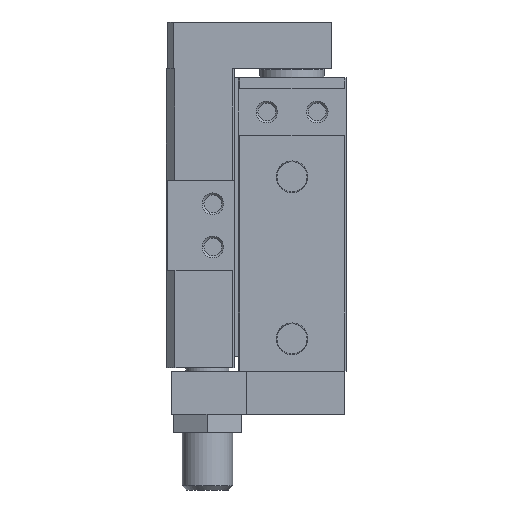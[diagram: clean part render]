
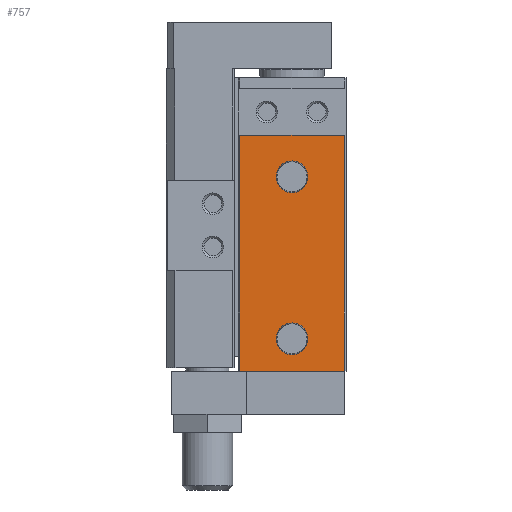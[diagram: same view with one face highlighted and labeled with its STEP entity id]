
A CAD part, left-side view. The second image highlights one B-rep face of the part: STEP entity #757.
In plain terms, the highlighted planar face has unit normal (-1, 0, 0).
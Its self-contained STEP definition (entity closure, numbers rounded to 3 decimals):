
#757 = ADVANCED_FACE( '', ( #1931, #1932, #1933 ), #1934, .T. );
#1931 = FACE_BOUND( '', #3687, .T. );
#1932 = FACE_BOUND( '', #3688, .T. );
#1933 = FACE_OUTER_BOUND( '', #3689, .T. );
#1934 = PLANE( '', #3690 );
#3687 = EDGE_LOOP( '', ( #5816 ) );
#3688 = EDGE_LOOP( '', ( #5817 ) );
#3689 = EDGE_LOOP( '', ( #5818, #5819, #5820, #5821 ) );
#3690 = AXIS2_PLACEMENT_3D( '', #5822, #5823, #5824 );
#5816 = ORIENTED_EDGE( '', *, *, #9852, .T. );
#5817 = ORIENTED_EDGE( '', *, *, #9853, .T. );
#5818 = ORIENTED_EDGE( '', *, *, #9854, .T. );
#5819 = ORIENTED_EDGE( '', *, *, #9855, .F. );
#5820 = ORIENTED_EDGE( '', *, *, #9780, .F. );
#5821 = ORIENTED_EDGE( '', *, *, #9856, .T. );
#5822 = CARTESIAN_POINT( '', ( -38., 29.5, -81.5 ) );
#5823 = DIRECTION( '', ( -1., 0., 0. ) );
#5824 = DIRECTION( '', ( 0., 0., 1. ) );
#9780 = EDGE_CURVE( '', #11660, #11661, #11662, .T. );
#9852 = EDGE_CURVE( '', #11787, #11787, #11788, .T. );
#9853 = EDGE_CURVE( '', #11789, #11789, #11790, .T. );
#9854 = EDGE_CURVE( '', #11791, #11792, #11793, .T. );
#9855 = EDGE_CURVE( '', #11661, #11792, #11794, .T. );
#9856 = EDGE_CURVE( '', #11660, #11791, #11795, .T. );
#11660 = VERTEX_POINT( '', #14305 );
#11661 = VERTEX_POINT( '', #14306 );
#11662 = LINE( '', #14307, #14308 );
#11787 = VERTEX_POINT( '', #14485 );
#11788 = CIRCLE( '', #14486, 4.408 );
#11789 = VERTEX_POINT( '', #14487 );
#11790 = CIRCLE( '', #14488, 4.408 );
#11791 = VERTEX_POINT( '', #14489 );
#11792 = VERTEX_POINT( '', #14490 );
#11793 = LINE( '', #14491, #14492 );
#11794 = LINE( '', #14493, #14494 );
#11795 = LINE( '', #14495, #14496 );
#14305 = CARTESIAN_POINT( '', ( -38., 29.5, -81.5 ) );
#14306 = CARTESIAN_POINT( '', ( -38., 29.5, -16. ) );
#14307 = CARTESIAN_POINT( '', ( -38., 29.5, -81.5 ) );
#14308 = VECTOR( '', #17254, 1000. );
#14485 = CARTESIAN_POINT( '', ( -38., 15., -76.908 ) );
#14486 = AXIS2_PLACEMENT_3D( '', #17325, #17326, #17327 );
#14487 = CARTESIAN_POINT( '', ( -38., 15., -31.908 ) );
#14488 = AXIS2_PLACEMENT_3D( '', #17328, #17329, #17330 );
#14489 = CARTESIAN_POINT( '', ( -38., 0.5, -81.5 ) );
#14490 = CARTESIAN_POINT( '', ( -38., 0.5, -16. ) );
#14491 = CARTESIAN_POINT( '', ( -38., 0.5, -81.5 ) );
#14492 = VECTOR( '', #17331, 1000. );
#14493 = CARTESIAN_POINT( '', ( -38., 30., -16. ) );
#14494 = VECTOR( '', #17332, 1000. );
#14495 = CARTESIAN_POINT( '', ( -38., 29.5, -81.5 ) );
#14496 = VECTOR( '', #17333, 1000. );
#17254 = DIRECTION( '', ( 0., 0., 1. ) );
#17325 = CARTESIAN_POINT( '', ( -38., 15., -72.5 ) );
#17326 = DIRECTION( '', ( 1., 0., 0. ) );
#17327 = DIRECTION( '', ( 0., 0., -1. ) );
#17328 = CARTESIAN_POINT( '', ( -38., 15., -27.5 ) );
#17329 = DIRECTION( '', ( 1., 0., 0. ) );
#17330 = DIRECTION( '', ( 0., 0., -1. ) );
#17331 = DIRECTION( '', ( 0., 0., 1. ) );
#17332 = DIRECTION( '', ( 0., -1., 0. ) );
#17333 = DIRECTION( '', ( 0., -1., 0. ) );
